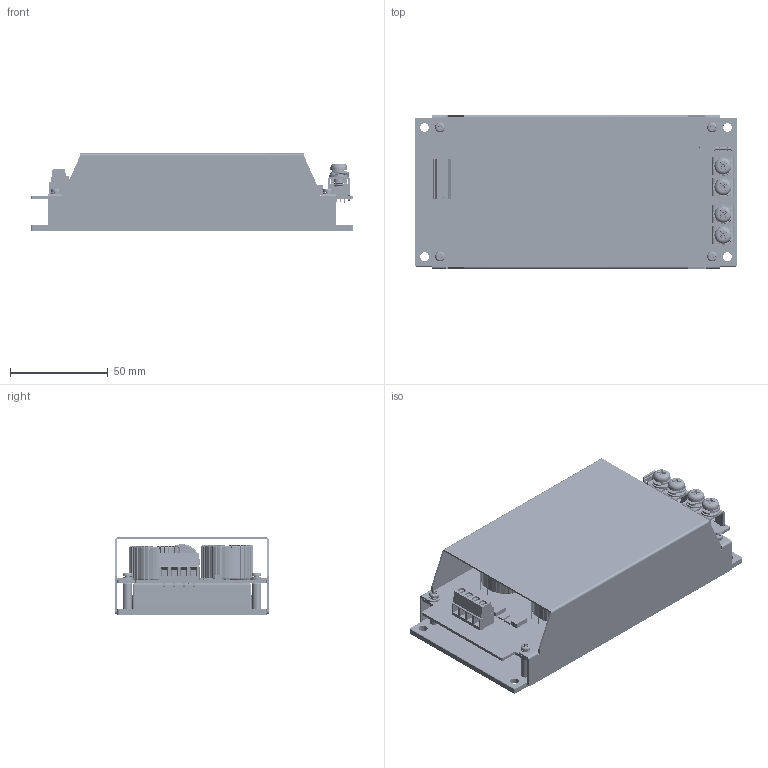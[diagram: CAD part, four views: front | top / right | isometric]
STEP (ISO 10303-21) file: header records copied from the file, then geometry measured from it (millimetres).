
FILE_DESCRIPTION (( 'STEP AP203' ), '1' );
FILE_NAME ('CHB300W-110S CMFD 3.3,5V成品圖2025.01.03.STEP', '2025-01-03T08:45:06', ( '' ), ( '' ), 'SwSTEP 2.0', 'SolidWorks 2020', '' );
FILE_SCHEMA (( 'CONFIG_CONTROL_DESIGN' ));
Products named in the file (1): CHB300W-110S CMFD 3.3,5V成品圖2025.01.03
Bounding box: 165 x 78.56 x 39.5 mm (x, y, z)
Volume: 146285.2 mm3; surface area: 128888.9 mm2
Topology: 18 solids, 40 shells, 3181 faces, 8207 edges, 5202 vertices
Faces by surface type: plane 1473, cylinder 845, torus 603, bspline 155, cone 97, sphere 8
Full cylindrical faces by diameter (mm): 0.45 x24, 0.8 x4, 1 x13, 1.2 x5, 1.5 x2, 2 x5, 2.2 x8, 3.2 x11, 3.239 x3, 3.25 x1, 3.264 x1, 3.8 x4, 4 x9, 4.3 x4, 4.5 x4, 4.6 x4, 4.7 x8, 5 x8, 5.3 x4, 5.5 x4, 10 x4, 12 x1, 12.8 x1, 13 x1, 14 x2, 18.3 x2
Entity records: 154132 total; most frequent: CARTESIAN_POINT 81569, ORIENTED_EDGE 15620, DIRECTION 13918, EDGE_CURVE 7810, AXIS2_PLACEMENT_3D 5160, VERTEX_POINT 5079, EDGE_LOOP 3719, LINE 3598
